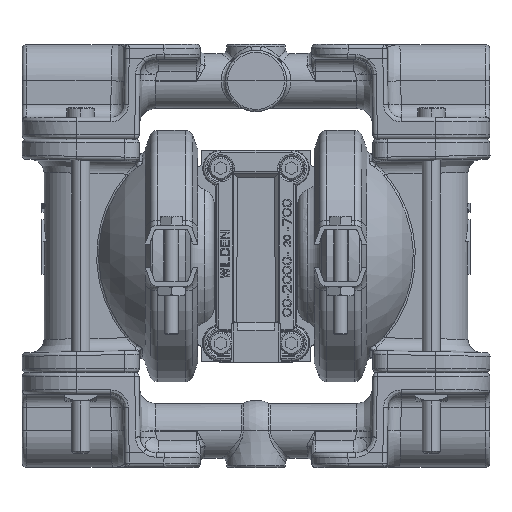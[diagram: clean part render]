
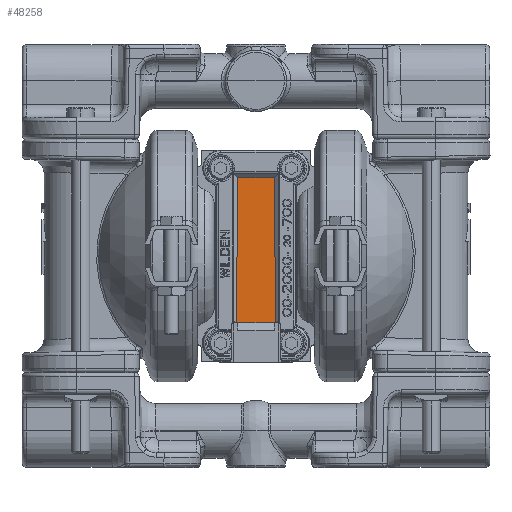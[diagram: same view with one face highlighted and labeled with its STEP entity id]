
A CAD part, top view. The second image highlights one B-rep face of the part: STEP entity #48258.
In plain terms, the highlighted planar face has unit normal (0, 0, 1).
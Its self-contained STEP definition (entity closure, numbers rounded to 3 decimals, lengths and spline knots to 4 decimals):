
#1794=DIRECTION('',(-1.,0.,0.));
#1795=VECTOR('',#1794,0.6079);
#1796=CARTESIAN_POINT('',(0.304,-0.92,2.001));
#1797=LINE('',#1796,#1795);
#22212=CARTESIAN_POINT('',(-0.2625,-0.9025,2.001));
#22213=DIRECTION('',(0.,0.,1.));
#22214=DIRECTION('',(-1.,0.,0.));
#22215=AXIS2_PLACEMENT_3D('',#22212,#22213,#22214);
#22217=DIRECTION('',(0.,-1.,0.));
#22218=VECTOR('',#22217,1.985);
#22219=CARTESIAN_POINT('',(-0.3075,1.0825,2.001));
#22220=LINE('',#22219,#22218);
#22221=CARTESIAN_POINT('',(-0.2625,1.0825,2.001));
#22222=DIRECTION('',(0.,0.,1.));
#22223=DIRECTION('',(0.,1.,0.));
#22224=AXIS2_PLACEMENT_3D('',#22221,#22222,#22223);
#22226=DIRECTION('',(-1.,0.,0.));
#22227=VECTOR('',#22226,0.525);
#22228=CARTESIAN_POINT('',(0.2625,1.1275,2.001));
#22229=LINE('',#22228,#22227);
#22230=CARTESIAN_POINT('',(0.2625,1.0825,2.001));
#22231=DIRECTION('',(0.,0.,1.));
#22232=DIRECTION('',(1.,0.,0.));
#22233=AXIS2_PLACEMENT_3D('',#22230,#22231,#22232);
#22235=DIRECTION('',(0.,1.,0.));
#22236=VECTOR('',#22235,1.985);
#22237=CARTESIAN_POINT('',(0.3075,-0.9025,2.001));
#22238=LINE('',#22237,#22236);
#22239=CARTESIAN_POINT('',(0.2625,-0.9025,2.001));
#22240=DIRECTION('',(0.,0.,1.));
#22241=DIRECTION('',(0.921,-0.389,0.));
#22242=AXIS2_PLACEMENT_3D('',#22239,#22240,#22241);
#30919=CARTESIAN_POINT('',(0.3075,1.0825,2.001));
#30921=VERTEX_POINT('',#30919);
#30923=CARTESIAN_POINT('',(0.2625,1.1275,2.001));
#30924=VERTEX_POINT('',#30923);
#30925=CARTESIAN_POINT('',(-0.2625,1.1275,2.001));
#30926=CARTESIAN_POINT('',(-0.3075,1.0825,2.001));
#30927=VERTEX_POINT('',#30925);
#30928=VERTEX_POINT('',#30926);
#30931=CARTESIAN_POINT('',(0.3075,-0.9025,2.001));
#30933=VERTEX_POINT('',#30931);
#30935=CARTESIAN_POINT('',(-0.3075,-0.9025,2.001));
#30937=VERTEX_POINT('',#30935);
#30967=CARTESIAN_POINT('',(0.304,-0.92,2.001));
#30968=CARTESIAN_POINT('',(-0.304,-0.92,2.001));
#30969=VERTEX_POINT('',#30967);
#30970=VERTEX_POINT('',#30968);
#48241=CARTESIAN_POINT('',(0.,0.09,2.001));
#48242=DIRECTION('',(0.,0.,1.));
#48243=DIRECTION('',(-1.,0.,0.));
#48244=AXIS2_PLACEMENT_3D('',#48241,#48242,#48243);
#48245=PLANE('',#48244);
#48246=ORIENTED_EDGE('',*,*,#32698,.T.);
#48248=ORIENTED_EDGE('',*,*,#48247,.F.);
#48250=ORIENTED_EDGE('',*,*,#48249,.F.);
#48251=ORIENTED_EDGE('',*,*,#48177,.F.);
#48252=ORIENTED_EDGE('',*,*,#48193,.F.);
#48253=ORIENTED_EDGE('',*,*,#48208,.F.);
#48254=ORIENTED_EDGE('',*,*,#48223,.F.);
#48255=ORIENTED_EDGE('',*,*,#48234,.F.);
#48256=EDGE_LOOP('',(#48246,#48248,#48250,#48251,#48252,#48253,#48254,#48255));
#48257=FACE_OUTER_BOUND('',#48256,.F.);
#48258=ADVANCED_FACE('',(#48257),#48245,.T.);
#22216=CIRCLE('',#22215,0.045);
#22225=CIRCLE('',#22224,0.045);
#22234=CIRCLE('',#22233,0.045);
#22243=CIRCLE('',#22242,0.045);
#32698=EDGE_CURVE('',#30969,#30970,#1797,.T.);
#48177=EDGE_CURVE('',#30927,#30928,#22225,.T.);
#48193=EDGE_CURVE('',#30924,#30927,#22229,.T.);
#48208=EDGE_CURVE('',#30921,#30924,#22234,.T.);
#48223=EDGE_CURVE('',#30933,#30921,#22238,.T.);
#48234=EDGE_CURVE('',#30969,#30933,#22243,.T.);
#48247=EDGE_CURVE('',#30937,#30970,#22216,.T.);
#48249=EDGE_CURVE('',#30928,#30937,#22220,.T.);
